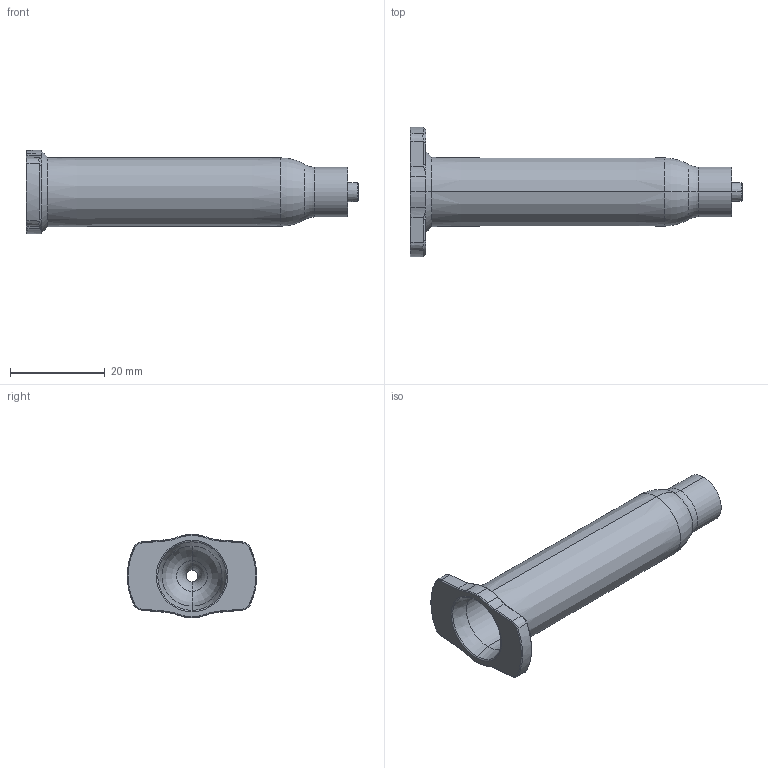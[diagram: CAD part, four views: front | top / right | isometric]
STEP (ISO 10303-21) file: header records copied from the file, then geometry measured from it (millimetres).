
FILE_DESCRIPTION (( 'STEP AP214' ), '1' );
FILE_NAME ('8001002_CUS.STEP', '2022-06-03T12:59:13', ( '' ), ( '' ), 'SwSTEP 2.0', 'SolidWorks 2020', '' );
FILE_SCHEMA (( 'AUTOMOTIVE_DESIGN' ));
Length unit declared in the file: millimetre
Products named in the file (1): 8001002_CUS
Bounding box: 70 x 27.29 x 17.57 mm (x, y, z)
Volume: 3508.4 mm3; surface area: 6398 mm2
Topology: 1 solids, 1 shells, 198 faces, 495 edges, 313 vertices
Faces by surface type: plane 66, torus 44, cone 43, bspline 31, cylinder 14
Entity records: 7980 total; most frequent: CARTESIAN_POINT 3414, ORIENTED_EDGE 990, DIRECTION 888, EDGE_CURVE 495, AXIS2_PLACEMENT_3D 335, VERTEX_POINT 313, LINE 218, VECTOR 218
